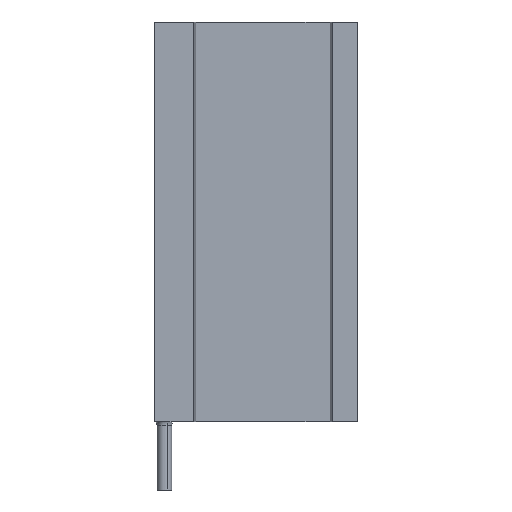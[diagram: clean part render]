
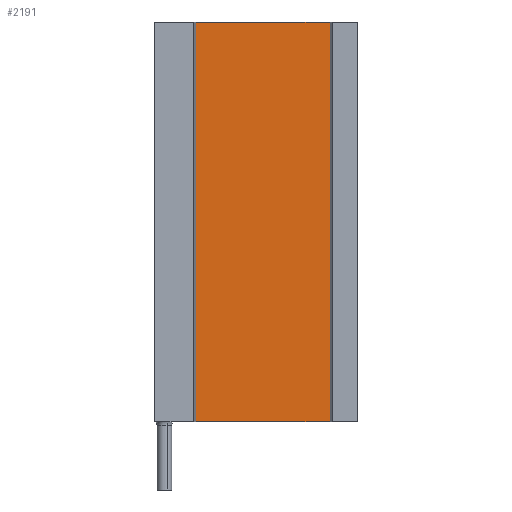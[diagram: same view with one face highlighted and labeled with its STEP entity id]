
A CAD part, left-side view. The second image highlights one B-rep face of the part: STEP entity #2191.
In plain terms, the highlighted planar face has unit normal (-1, 0, 0).
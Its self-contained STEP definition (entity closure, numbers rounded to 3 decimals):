
#38 = ORIENTED_EDGE ( 'NONE', *, *, #479, .F. ) ;
#258 = PLANE ( 'NONE',  #1443 ) ;
#300 = DIRECTION ( 'NONE',  ( 0., 0., 1. ) ) ;
#368 = VECTOR ( 'NONE', #3245, 1000. ) ;
#448 = CARTESIAN_POINT ( 'NONE',  ( 66.6, 231.204, 280.517 ) ) ;
#479 = EDGE_CURVE ( 'NONE', #809, #1541, #708, .T. ) ;
#544 = VECTOR ( 'NONE', #1121, 1000. ) ;
#558 = ORIENTED_EDGE ( 'NONE', *, *, #652, .F. ) ;
#608 = EDGE_CURVE ( 'NONE', #1679, #1541, #2162, .T. ) ;
#611 = ORIENTED_EDGE ( 'NONE', *, *, #1320, .F. ) ;
#652 = EDGE_CURVE ( 'NONE', #1057, #809, #1881, .T. ) ;
#658 = CARTESIAN_POINT ( 'NONE',  ( 66.6, 298.704, 485.517 ) ) ;
#708 = LINE ( 'NONE', #3041, #368 ) ;
#809 = VERTEX_POINT ( 'NONE', #3243 ) ;
#1057 = VERTEX_POINT ( 'NONE', #1154 ) ;
#1121 = DIRECTION ( 'NONE',  ( 0., -1., 0. ) ) ;
#1154 = CARTESIAN_POINT ( 'NONE',  ( 66.6, 300.204, 485.517 ) ) ;
#1320 = EDGE_CURVE ( 'NONE', #1679, #1057, #1575, .T. ) ;
#1443 = AXIS2_PLACEMENT_3D ( 'NONE', #1884, #1844, #1639 ) ;
#1541 = VERTEX_POINT ( 'NONE', #448 ) ;
#1575 = LINE ( 'NONE', #1850, #2965 ) ;
#1639 = DIRECTION ( 'NONE',  ( 0., 0., -1. ) ) ;
#1652 = DIRECTION ( 'NONE',  ( 0., -1., 0. ) ) ;
#1679 = VERTEX_POINT ( 'NONE', #2268 ) ;
#1844 = DIRECTION ( 'NONE',  ( 1., 0., 0. ) ) ;
#1850 = CARTESIAN_POINT ( 'NONE',  ( 66.6, 300.204, 280.517 ) ) ;
#1881 = LINE ( 'NONE', #658, #544 ) ;
#1884 = CARTESIAN_POINT ( 'NONE',  ( 66.6, 298.704, 485.517 ) ) ;
#1965 = VECTOR ( 'NONE', #1652, 1000. ) ;
#2091 = CARTESIAN_POINT ( 'NONE',  ( 66.6, 298.704, 280.517 ) ) ;
#2156 = ORIENTED_EDGE ( 'NONE', *, *, #608, .T. ) ;
#2162 = LINE ( 'NONE', #2091, #1965 ) ;
#2166 = EDGE_LOOP ( 'NONE', ( #2156, #38, #558, #611 ) ) ;
#2191 = ADVANCED_FACE ( 'NONE', ( #2566 ), #258, .F. ) ;
#2268 = CARTESIAN_POINT ( 'NONE',  ( 66.6, 300.204, 280.517 ) ) ;
#2566 = FACE_OUTER_BOUND ( 'NONE', #2166, .T. ) ;
#2965 = VECTOR ( 'NONE', #300, 1000. ) ;
#3041 = CARTESIAN_POINT ( 'NONE',  ( 66.6, 231.204, 485.517 ) ) ;
#3243 = CARTESIAN_POINT ( 'NONE',  ( 66.6, 231.204, 485.517 ) ) ;
#3245 = DIRECTION ( 'NONE',  ( 0., 0., -1. ) ) ;
